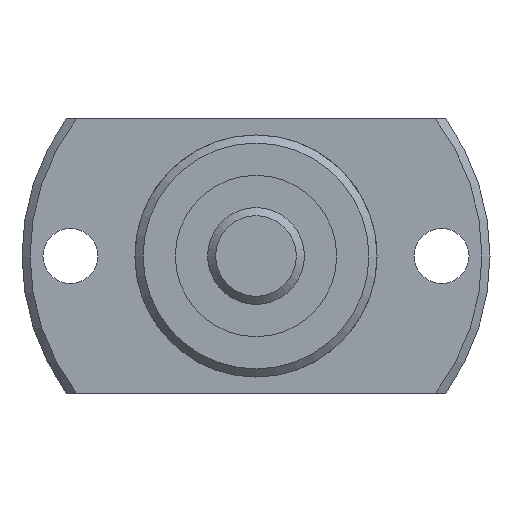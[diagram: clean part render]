
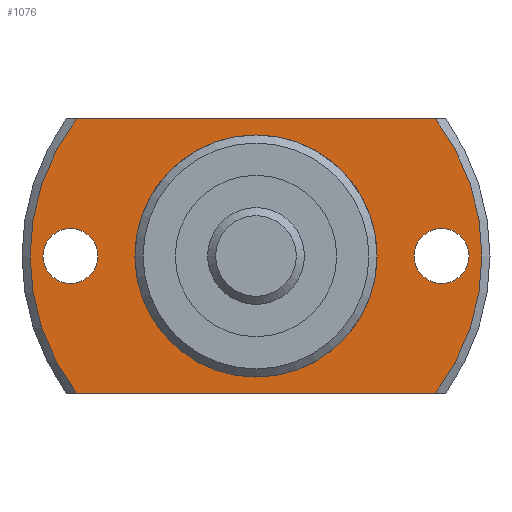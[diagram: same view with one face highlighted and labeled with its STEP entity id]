
A CAD part, left-side view. The second image highlights one B-rep face of the part: STEP entity #1076.
In plain terms, the highlighted planar face has unit normal (-1, 0, 0).
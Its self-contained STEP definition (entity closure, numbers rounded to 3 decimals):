
#107=LINE('',#1799,#165);
#108=LINE('',#1803,#166);
#165=VECTOR('',#1439,1000.);
#166=VECTOR('',#1442,1000.);
#291=ORIENTED_EDGE('',*,*,#548,.T.);
#292=ORIENTED_EDGE('',*,*,#549,.T.);
#293=ORIENTED_EDGE('',*,*,#537,.F.);
#294=ORIENTED_EDGE('',*,*,#550,.T.);
#295=ORIENTED_EDGE('',*,*,#551,.F.);
#296=ORIENTED_EDGE('',*,*,#552,.T.);
#297=ORIENTED_EDGE('',*,*,#531,.T.);
#531=EDGE_CURVE('',#669,#669,#759,.T.);
#537=EDGE_CURVE('',#674,#675,#762,.T.);
#548=EDGE_CURVE('',#684,#684,#768,.T.);
#549=EDGE_CURVE('',#685,#685,#769,.T.);
#550=EDGE_CURVE('',#674,#686,#107,.T.);
#551=EDGE_CURVE('',#687,#686,#770,.T.);
#552=EDGE_CURVE('',#687,#675,#108,.T.);
#669=VERTEX_POINT('',#1746);
#674=VERTEX_POINT('',#1760);
#675=VERTEX_POINT('',#1762);
#684=VERTEX_POINT('',#1796);
#685=VERTEX_POINT('',#1798);
#686=VERTEX_POINT('',#1800);
#687=VERTEX_POINT('',#1802);
#759=CIRCLE('',#1193,7.3);
#762=CIRCLE('',#1197,14.);
#768=CIRCLE('',#1208,1.7);
#769=CIRCLE('',#1209,1.7);
#770=CIRCLE('',#1210,14.);
#846=EDGE_LOOP('',(#291));
#847=EDGE_LOOP('',(#292));
#848=EDGE_LOOP('',(#293,#294,#295,#296));
#849=EDGE_LOOP('',(#297));
#952=FACE_BOUND('',#846,.T.);
#953=FACE_BOUND('',#847,.T.);
#954=FACE_BOUND('',#848,.T.);
#955=FACE_BOUND('',#849,.T.);
#1025=PLANE('',#1207);
#1076=ADVANCED_FACE('',(#952,#953,#954,#955),#1025,.F.);
#1193=AXIS2_PLACEMENT_3D('',#1745,#1401,#1402);
#1197=AXIS2_PLACEMENT_3D('',#1761,#1411,#1412);
#1207=AXIS2_PLACEMENT_3D('',#1794,#1433,#1434);
#1208=AXIS2_PLACEMENT_3D('',#1795,#1435,#1436);
#1209=AXIS2_PLACEMENT_3D('',#1797,#1437,#1438);
#1210=AXIS2_PLACEMENT_3D('',#1801,#1440,#1441);
#1401=DIRECTION('',(1.,0.,0.));
#1402=DIRECTION('',(0.,0.,-1.));
#1411=DIRECTION('',(1.,0.,0.));
#1412=DIRECTION('',(0.,0.,-1.));
#1433=DIRECTION('',(1.,0.,0.));
#1434=DIRECTION('',(0.,0.,-1.));
#1435=DIRECTION('',(1.,0.,0.));
#1436=DIRECTION('',(0.,0.,-1.));
#1437=DIRECTION('',(1.,0.,0.));
#1438=DIRECTION('',(0.,0.,-1.));
#1439=DIRECTION('',(0.,-1.,0.));
#1440=DIRECTION('',(1.,0.,0.));
#1441=DIRECTION('',(0.,0.,-1.));
#1442=DIRECTION('',(0.,1.,0.));
#1745=CARTESIAN_POINT('',(14.,0.,0.));
#1746=CARTESIAN_POINT('',(14.,0.,-7.3));
#1760=CARTESIAN_POINT('',(14.,11.124,-8.5));
#1761=CARTESIAN_POINT('',(14.,0.,0.));
#1762=CARTESIAN_POINT('',(14.,11.124,8.5));
#1794=CARTESIAN_POINT('',(14.,7.3,0.));
#1795=CARTESIAN_POINT('',(14.,-11.5,0.));
#1796=CARTESIAN_POINT('',(14.,-11.5,-1.7));
#1797=CARTESIAN_POINT('',(14.,11.5,0.));
#1798=CARTESIAN_POINT('',(14.,11.5,-1.7));
#1799=CARTESIAN_POINT('',(14.,7.3,-8.5));
#1800=CARTESIAN_POINT('',(14.,-11.124,-8.5));
#1801=CARTESIAN_POINT('',(14.,0.,0.));
#1802=CARTESIAN_POINT('',(14.,-11.124,8.5));
#1803=CARTESIAN_POINT('',(14.,7.3,8.5));
